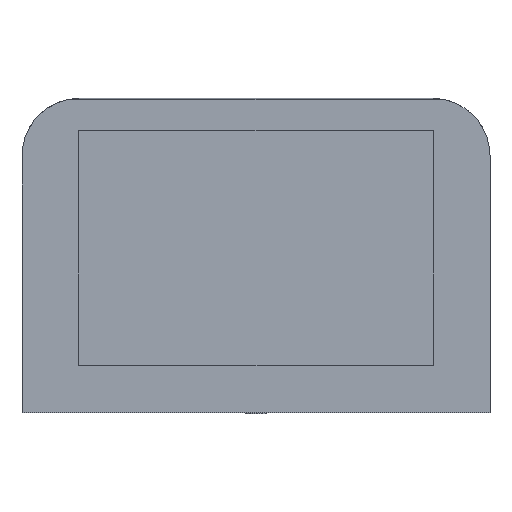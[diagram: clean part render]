
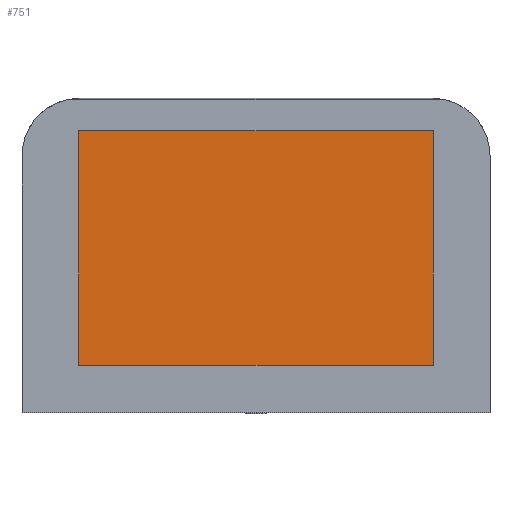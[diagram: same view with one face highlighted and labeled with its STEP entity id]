
A CAD part, top view. The second image highlights one B-rep face of the part: STEP entity #751.
In plain terms, the highlighted planar face has unit normal (0, 0, 1).
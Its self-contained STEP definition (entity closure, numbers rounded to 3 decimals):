
#31 = PLANE ( 'NONE',  #710 ) ;
#110 = CARTESIAN_POINT ( 'NONE',  ( -87.788, 61.693, 20.58 ) ) ;
#111 = DIRECTION ( 'NONE',  ( 0., 0., 1. ) ) ;
#112 = DIRECTION ( 'NONE',  ( 1., 0., 0. ) ) ;
#178 = EDGE_CURVE ( 'NONE', #321, #319, #529, .T. ) ;
#183 = EDGE_CURVE ( 'NONE', #319, #318, #537, .T. ) ;
#194 = EDGE_CURVE ( 'NONE', #318, #322, #552, .T. ) ;
#196 = EDGE_CURVE ( 'NONE', #322, #321, #548, .T. ) ;
#256 = ORIENTED_EDGE ( 'NONE', *, *, #178, .T. ) ;
#257 = ORIENTED_EDGE ( 'NONE', *, *, #183, .T. ) ;
#258 = ORIENTED_EDGE ( 'NONE', *, *, #194, .T. ) ;
#266 = ORIENTED_EDGE ( 'NONE', *, *, #196, .T. ) ;
#318 = VERTEX_POINT ( 'NONE', #508 ) ;
#319 = VERTEX_POINT ( 'NONE', #509 ) ;
#321 = VERTEX_POINT ( 'NONE', #511 ) ;
#322 = VERTEX_POINT ( 'NONE', #512 ) ;
#377 = CARTESIAN_POINT ( 'NONE',  ( 87.787, -54.287, 20.58 ) ) ;
#378 = DIRECTION ( 'NONE',  ( 1., 0., 0. ) ) ;
#389 = CARTESIAN_POINT ( 'NONE',  ( 87.787, -54.287, 20.58 ) ) ;
#390 = DIRECTION ( 'NONE',  ( 0., 1., 0. ) ) ;
#456 = CARTESIAN_POINT ( 'NONE',  ( 87.787, 61.693, 20.58 ) ) ;
#457 = DIRECTION ( 'NONE',  ( -1., 0., 0. ) ) ;
#460 = CARTESIAN_POINT ( 'NONE',  ( -87.788, -54.287, 20.58 ) ) ;
#461 = DIRECTION ( 'NONE',  ( 0., -1., 0. ) ) ;
#508 = CARTESIAN_POINT ( 'NONE',  ( 87.787, 61.693, 20.58 ) ) ;
#509 = CARTESIAN_POINT ( 'NONE',  ( 87.787, -54.287, 20.58 ) ) ;
#511 = CARTESIAN_POINT ( 'NONE',  ( -87.788, -54.287, 20.58 ) ) ;
#512 = CARTESIAN_POINT ( 'NONE',  ( -87.788, 61.693, 20.58 ) ) ;
#524 = VECTOR ( 'NONE', #378, 1000. ) ;
#529 = LINE ( 'NONE', #377, #524 ) ;
#537 = LINE ( 'NONE', #389, #538 ) ;
#538 = VECTOR ( 'NONE', #390, 1000. ) ;
#548 = LINE ( 'NONE', #460, #559 ) ;
#552 = LINE ( 'NONE', #456, #553 ) ;
#553 = VECTOR ( 'NONE', #457, 1000. ) ;
#559 = VECTOR ( 'NONE', #461, 1000. ) ;
#676 = EDGE_LOOP ( 'NONE', ( #266, #256, #257, #258 ) ) ;
#710 = AXIS2_PLACEMENT_3D ( 'NONE', #110, #111, #112 ) ;
#751 = ADVANCED_FACE ( 'NONE', ( #775 ), #31, .T. ) ;
#775 = FACE_OUTER_BOUND ( 'NONE', #676, .T. ) ;
